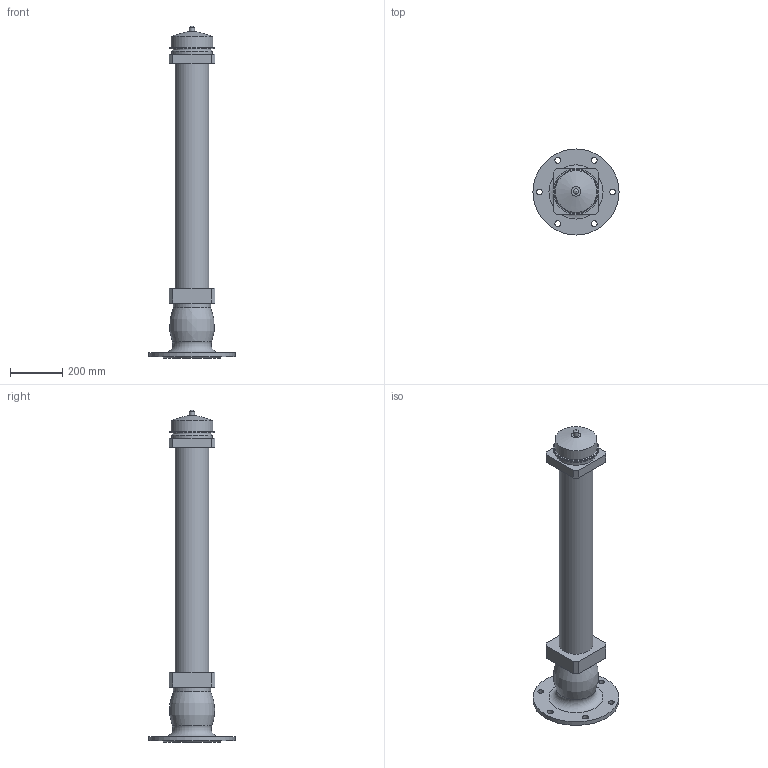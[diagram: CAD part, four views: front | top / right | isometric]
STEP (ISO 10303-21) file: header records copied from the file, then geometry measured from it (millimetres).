
FILE_DESCRIPTION(('STEP AP203'), '1');
FILE_NAME('Ãèäðàíò GPP 1250 ïîæàðíûé ïîäçåìíûé', '', ('UNSPECIFIED'), ('UNSPECIFIED'), 'ASCON STEP Converter 1.6', 'ASCON Math Kernel', '');
FILE_SCHEMA(('CONFIG_CONTROL_DESIGN'));
Length unit declared in the file: millimetre
Bounding box: 330 x 330 x 1272 mm (x, y, z)
Volume: 21006300.8 mm3; surface area: 806898.8 mm2
Topology: 1 solids, 1 shells, 47 faces, 104 edges, 67 vertices
Faces by surface type: plane 26, cylinder 12, cone 7, torus 2
Full cylindrical faces by diameter (mm): 20 x1, 22 x6, 129 x1, 142 x1, 143 x1, 157.302 x1, 160 x1
Entity records: 1617 total; most frequent: DIRECTION 212, CARTESIAN_POINT 196, ORIENTED_EDGE 164, EDGE_LOOP 88, AXIS2_PLACEMENT_3D 82, EDGE_CURVE 82, VERTEX_POINT 66, COLOUR_RGB 48
